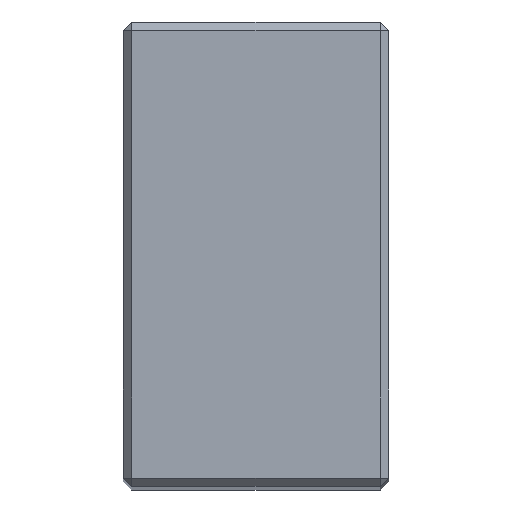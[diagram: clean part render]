
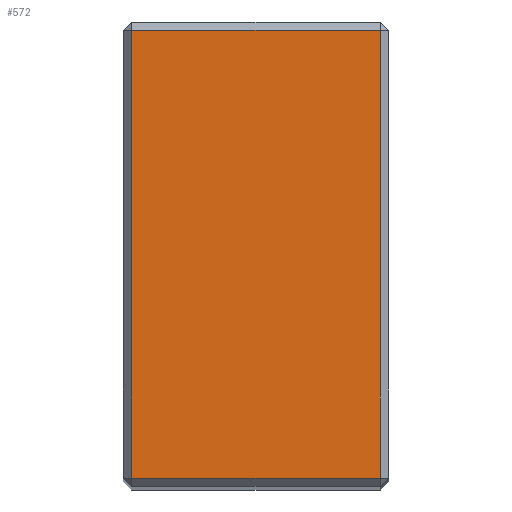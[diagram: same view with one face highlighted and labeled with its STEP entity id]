
A CAD part, top view. The second image highlights one B-rep face of the part: STEP entity #572.
In plain terms, the highlighted planar face has unit normal (0, 0, 1).
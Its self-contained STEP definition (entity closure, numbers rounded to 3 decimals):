
#13 = LINE ( 'NONE', #69, #564 ) ;
#39 = DIRECTION ( 'NONE',  ( -1., 0., 0. ) ) ;
#42 = CARTESIAN_POINT ( 'NONE',  ( 15., 1., 123. ) ) ;
#56 = CARTESIAN_POINT ( 'NONE',  ( 15., 55., 123. ) ) ;
#60 = DIRECTION ( 'NONE',  ( 0., 0., -1. ) ) ;
#69 = CARTESIAN_POINT ( 'NONE',  ( 15., 56., 123. ) ) ;
#96 = VECTOR ( 'NONE', #39, 1000. ) ;
#123 = DIRECTION ( 'NONE',  ( 0., 1., 0. ) ) ;
#131 = ORIENTED_EDGE ( 'NONE', *, *, #268, .T. ) ;
#160 = LINE ( 'NONE', #526, #387 ) ;
#224 = DIRECTION ( 'NONE',  ( 0., -1., 0. ) ) ;
#236 = VECTOR ( 'NONE', #280, 1000. ) ;
#255 = CARTESIAN_POINT ( 'NONE',  ( -15., 55., 123. ) ) ;
#268 = EDGE_CURVE ( 'NONE', #567, #521, #491, .T. ) ;
#280 = DIRECTION ( 'NONE',  ( 1., 0., 0. ) ) ;
#301 = CARTESIAN_POINT ( 'NONE',  ( -16., 55., 123. ) ) ;
#319 = PLANE ( 'NONE',  #500 ) ;
#375 = CARTESIAN_POINT ( 'NONE',  ( 16., 56., 123. ) ) ;
#381 = LINE ( 'NONE', #301, #96 ) ;
#387 = VECTOR ( 'NONE', #224, 1000. ) ;
#417 = VERTEX_POINT ( 'NONE', #255 ) ;
#421 = CARTESIAN_POINT ( 'NONE',  ( -15., 1., 123. ) ) ;
#427 = DIRECTION ( 'NONE',  ( -1., 0., 0. ) ) ;
#443 = ORIENTED_EDGE ( 'NONE', *, *, #646, .T. ) ;
#464 = ORIENTED_EDGE ( 'NONE', *, *, #620, .T. ) ;
#485 = CARTESIAN_POINT ( 'NONE',  ( 16., 1., 123. ) ) ;
#490 = EDGE_CURVE ( 'NONE', #559, #417, #381, .T. ) ;
#491 = LINE ( 'NONE', #485, #236 ) ;
#495 = EDGE_LOOP ( 'NONE', ( #625, #464, #131, #443 ) ) ;
#500 = AXIS2_PLACEMENT_3D ( 'NONE', #375, #60, #427 ) ;
#521 = VERTEX_POINT ( 'NONE', #42 ) ;
#526 = CARTESIAN_POINT ( 'NONE',  ( -15., 56., 123. ) ) ;
#559 = VERTEX_POINT ( 'NONE', #56 ) ;
#564 = VECTOR ( 'NONE', #123, 1000. ) ;
#567 = VERTEX_POINT ( 'NONE', #421 ) ;
#572 = ADVANCED_FACE ( 'NONE', ( #613 ), #319, .F. ) ;
#613 = FACE_OUTER_BOUND ( 'NONE', #495, .T. ) ;
#620 = EDGE_CURVE ( 'NONE', #417, #567, #160, .T. ) ;
#625 = ORIENTED_EDGE ( 'NONE', *, *, #490, .T. ) ;
#646 = EDGE_CURVE ( 'NONE', #521, #559, #13, .T. ) ;
